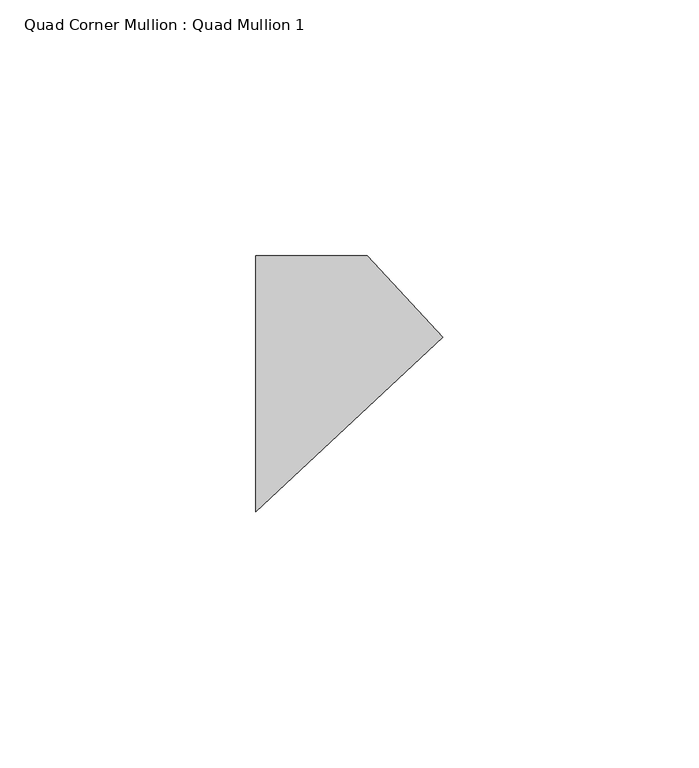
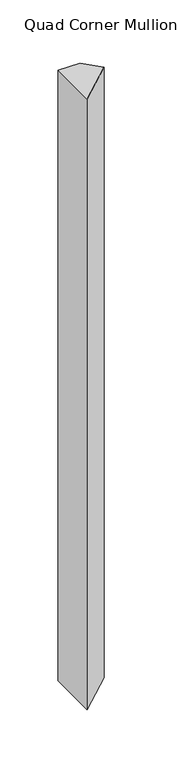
"""IFC4 building model written with IfcOpenShell, lengths in millimetres: member geometry, Quad Corner Mullion : Quad Mullion 1."""

from ifc_helpers import new_model, si_unit, frame, origin, place, context, project, spatial, polyline, outline, extrude, source, transform, mapped, element, save


def quad_corner_mullion_quad_mullion_1_3f887569(model_context):
    return source(origin(), model_context, "Body", "SweptSolid", [
        extrude(outline(polyline([(25.6973757, 9.099918), (-10.8703094, -25.0), (-10.8703094, 25.0), (10.8703094, 25.0), (25.6973757, 9.099918)])), frame((0.0, 0.0, -640.0), z_axis=(0.0, 0.0, 1.0), x_axis=(1.0, 0.0, 0.0)), (0.0, 0.0, 1.0), 640.0),
    ])


if __name__ == "__main__":
    model = new_model("IFC4")
    model_context = context("Model", 3, world=origin())
    ifc_project = project(units=[si_unit("LENGTHUNIT", "METRE", prefix="MILLI")], contexts=[model_context])
    site = spatial("IfcSite", under=ifc_project)
    building = spatial("IfcBuilding", under=site)
    placement = place(None, origin())
    quad_corner_mullion_quad_mullion_1_shape = quad_corner_mullion_quad_mullion_1_3f887569(model_context)
    element("IfcMember", 1, ObjectType="Quad Corner Mullion : Quad Mullion 1", at=placement, inside=building, context=model_context, shape_type="MappedRepresentation", body=[
        mapped(quad_corner_mullion_quad_mullion_1_shape, transform((0.0, 0.0, 0.0), x_axis=(1.0, 0.0, 0.0), y_axis=(0.0, 1.0, 0.0), z_axis=(0.0, 0.0, 1.0))),
    ])
    save(model, "model.ifc")
